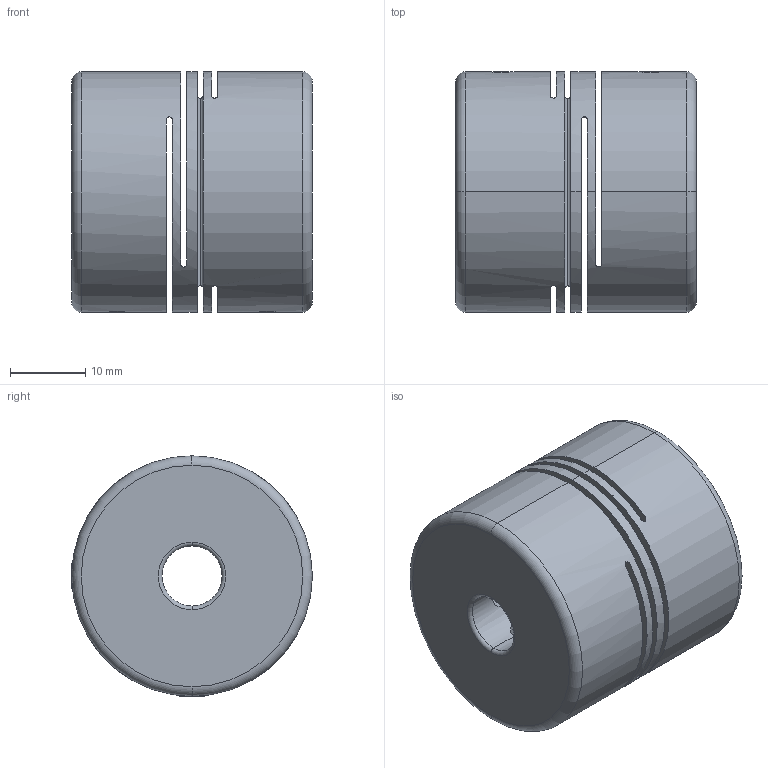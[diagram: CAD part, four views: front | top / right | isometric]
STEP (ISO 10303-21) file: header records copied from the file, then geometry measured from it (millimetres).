
FILE_DESCRIPTION (( 'STEP AP203' ), '1' );
FILE_NAME ('FSMMS32-8x8.STEP', '2014-01-03T06:47:07', ( '123' ), ( '' ), 'SwSTEP 2.0', 'SolidWorks 2013', '' );
FILE_SCHEMA (( 'CONFIG_CONTROL_DESIGN' ));
Length unit declared in the file: millimetre
Products named in the file (1): FSMMS32-8x8
Bounding box: 32 x 32 x 32 mm (x, y, z)
Surface area: 10760.3 mm2 (no closed solid volume)
Topology: 0 solids, 7 shells, 98 faces, 280 edges, 184 vertices
Faces by surface type: plane 38, cylinder 24, cone 20, bspline 8, torus 8
Entity records: 4039 total; most frequent: CARTESIAN_POINT 1455, ORIENTED_EDGE 508, DIRECTION 502, EDGE_CURVE 280, AXIS2_PLACEMENT_3D 187, VERTEX_POINT 184, VECTOR 128, LINE 128
